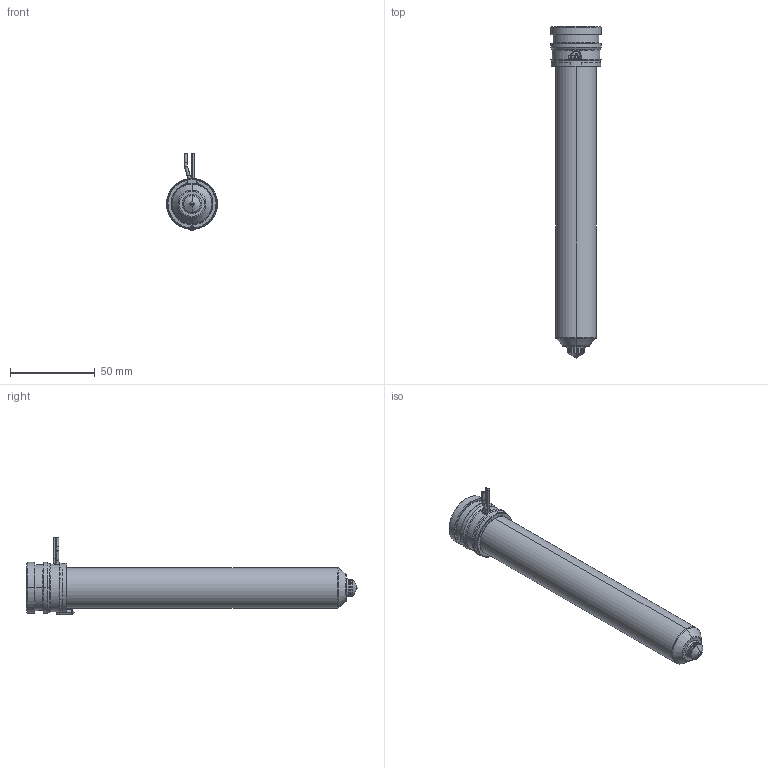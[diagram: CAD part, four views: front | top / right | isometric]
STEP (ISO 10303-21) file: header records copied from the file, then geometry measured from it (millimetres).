
FILE_DESCRIPTION((''),'2;1');
FILE_NAME('MPN-10-29-TS10-176-A','2026-02-05T12:33:52',('UPTIO'),('Thermoplay S.p.A.'),'CREO PARAMETRIC BY PTC INC, 2023494','CREO PARAMETRIC BY PTC INC, 2023494','');
FILE_SCHEMA(('CONFIG_CONTROL_DESIGN','SHAPE_APPEARANCE_LAYERS_GROUPS'));
Length unit declared in the file: millimetre
Products named in the file (1): MPN-10-29-TS10-176-A
Bounding box: 30 x 196 x 46 mm (x, y, z)
Volume: 60939 mm3; surface area: 61614.1 mm2
Topology: 2 solids, 3 shells, 552 faces, 1455 edges, 898 vertices
Faces by surface type: cylinder 180, plane 145, bspline 78, torus 68, cone 66, sphere 11, extrusion 4
Entity records: 31298 total; most frequent: CARTESIAN_POINT 14919, ORIENTED_EDGE 2894, DIRECTION 2651, EDGE_CURVE 1447, AXIS2_PLACEMENT_3D 1051, VERTEX_POINT 898, EDGE_LOOP 581, CIRCLE 580
